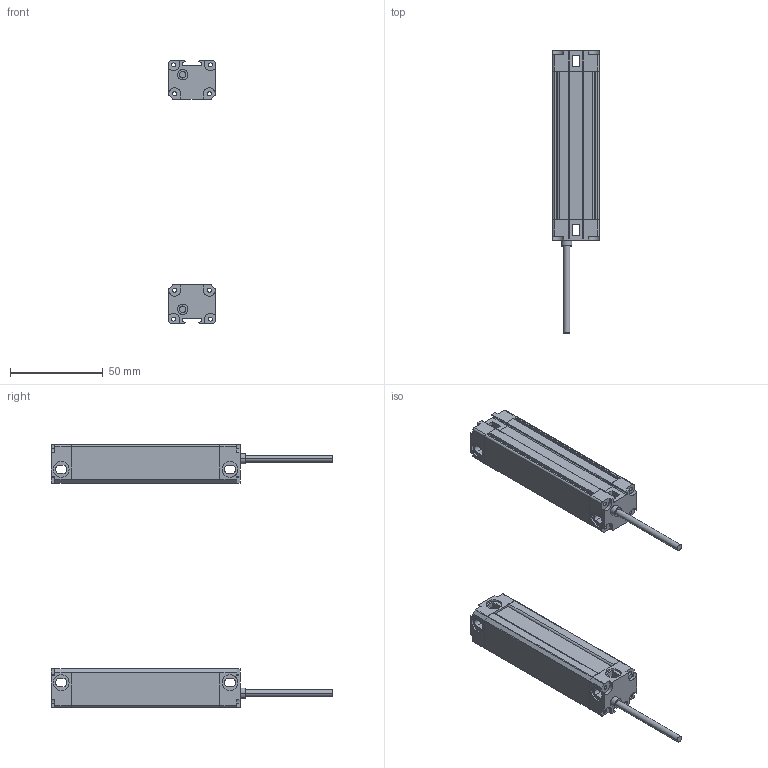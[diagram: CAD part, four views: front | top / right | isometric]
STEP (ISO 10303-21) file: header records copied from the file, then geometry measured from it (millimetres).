
FILE_DESCRIPTION (( 'STEP AP214' ), '1' );
FILE_NAME ('MTC0420.STEP', '2022-08-02T08:49:26', ( '' ), ( '' ), 'SwSTEP 2.0', 'SolidWorks 2018', '' );
FILE_SCHEMA (( 'AUTOMOTIVE_DESIGN' ));
Length unit declared in the file: millimetre
Products named in the file (5): P01^MTC; 噩砃P02^MTC; MTC0420; MTC waike^MTC; P02^MTC
Assembly tree (6 placements, depth 2):
  MTC0420
    MTC waike^MTC  x2
    P01^MTC  x2
    P02^MTC
    噩砃P02^MTC
Bounding box: 25 x 152 x 141.4 mm (x, y, z)
Volume: 42500.3 mm3; surface area: 49654.7 mm2
Topology: 8 solids, 8 shells, 480 faces, 1396 edges, 924 vertices
Faces by surface type: plane 272, cylinder 208
Entity records: 10886 total; most frequent: DIRECTION 1881, CARTESIAN_POINT 1878, ORIENTED_EDGE 1846, EDGE_CURVE 923, AXIS2_PLACEMENT_3D 637, VERTEX_POINT 610, VECTOR 607, LINE 607
